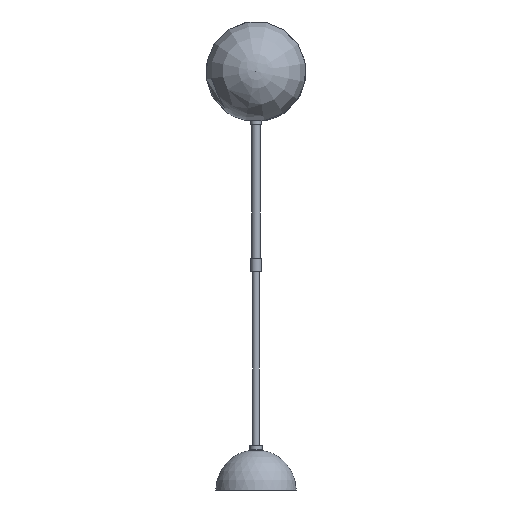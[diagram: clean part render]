
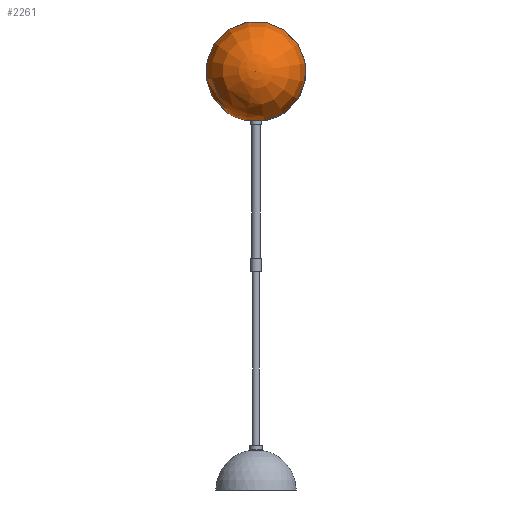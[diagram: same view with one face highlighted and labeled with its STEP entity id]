
A CAD part, front view. The second image highlights one B-rep face of the part: STEP entity #2261.
In plain terms, the highlighted free-form (B-spline) face has degree [2, 2] with [5, 9] control points.
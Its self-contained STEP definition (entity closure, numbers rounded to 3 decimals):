
#57=(
BOUNDED_SURFACE()
B_SPLINE_SURFACE(2,2,((#4041,#4042,#4043,#4044,#4045,#4046,#4047,#4048,
#4049),(#4050,#4051,#4052,#4053,#4054,#4055,#4056,#4057,#4058),(#4059,#4060,
#4061,#4062,#4063,#4064,#4065,#4066,#4067),(#4068,#4069,#4070,#4071,#4072,
#4073,#4074,#4075,#4076),(#4077,#4078,#4079,#4080,#4081,#4082,#4083,#4084,
#4085)),.UNSPECIFIED.,.F.,.T.,.F.)
B_SPLINE_SURFACE_WITH_KNOTS((3,2,3),(3,2,2,2,3),(-1.35,0.111,
1.572),(-3.142,-1.571,0.,1.571,
3.142),.UNSPECIFIED.)
GEOMETRIC_REPRESENTATION_ITEM()
RATIONAL_B_SPLINE_SURFACE(((1.,0.707,1.,0.707,1.,
0.707,1.,0.707,1.),(0.745,0.527,
0.745,0.527,0.745,0.527,
0.745,0.527,0.745),(1.,0.707,
1.,0.707,1.,0.707,1.,0.707,1.),(0.745,
0.527,0.745,0.527,0.745,0.527,
0.745,0.527,0.745),(1.,0.707,
1.,0.707,1.,0.707,1.,0.707,1.)))
REPRESENTATION_ITEM('')
SURFACE()
);
#252=FACE_OUTER_BOUND('',#429,.T.);
#429=EDGE_LOOP('',(#1741,#1742,#1743,#1744));
#832=CIRCLE('',#2526,16.5);
#834=CIRCLE('',#2528,16.5);
#837=CIRCLE('',#2532,75.);
#1033=VERTEX_POINT('',#4029);
#1034=VERTEX_POINT('',#4030);
#1038=VERTEX_POINT('',#4086);
#1283=EDGE_CURVE('',#1033,#1034,#832,.T.);
#1286=EDGE_CURVE('',#1034,#1033,#834,.T.);
#1289=EDGE_CURVE('',#1038,#1034,#837,.T.);
#1741=ORIENTED_EDGE('',*,*,#1289,.T.);
#1742=ORIENTED_EDGE('',*,*,#1286,.T.);
#1743=ORIENTED_EDGE('',*,*,#1283,.T.);
#1744=ORIENTED_EDGE('',*,*,#1289,.F.);
#2261=ADVANCED_FACE('',(#252),#57,.F.);
#2526=AXIS2_PLACEMENT_3D('',#4031,#3067,#3068);
#2528=AXIS2_PLACEMENT_3D('',#4035,#3072,#3073);
#2532=AXIS2_PLACEMENT_3D('',#4087,#3080,#3081);
#3067=DIRECTION('center_axis',(0.,-1.,0.));
#3068=DIRECTION('ref_axis',(0.84,0.,-0.543));
#3072=DIRECTION('center_axis',(0.,-1.,0.));
#3073=DIRECTION('ref_axis',(0.84,0.,-0.543));
#3080=DIRECTION('center_axis',(0.977,0.,-0.213));
#3081=DIRECTION('ref_axis',(-0.213,0.,-0.977));
#4029=CARTESIAN_POINT('',(-13.861,-304.024,8.951));
#4030=CARTESIAN_POINT('',(-3.509,-304.024,-16.123));
#4031=CARTESIAN_POINT('Origin',(0.,-304.024,
0.));
#4035=CARTESIAN_POINT('Origin',(0.,-304.024,
0.));
#4041=CARTESIAN_POINT('Ctrl Pts',(-3.509,-304.024,-16.123));
#4042=CARTESIAN_POINT('Ctrl Pts',(12.614,-304.024,-19.631));
#4043=CARTESIAN_POINT('Ctrl Pts',(16.123,-304.024,-3.509));
#4044=CARTESIAN_POINT('Ctrl Pts',(19.631,-304.024,12.614));
#4045=CARTESIAN_POINT('Ctrl Pts',(3.509,-304.024,16.123));
#4046=CARTESIAN_POINT('Ctrl Pts',(-12.614,-304.024,19.631));
#4047=CARTESIAN_POINT('Ctrl Pts',(-16.123,-304.024,3.509));
#4048=CARTESIAN_POINT('Ctrl Pts',(-19.631,-304.024,-12.614));
#4049=CARTESIAN_POINT('Ctrl Pts',(-3.509,-304.024,-16.123));
#4050=CARTESIAN_POINT('Ctrl Pts',(-17.456,-318.711,-80.211));
#4051=CARTESIAN_POINT('Ctrl Pts',(62.755,-318.711,-97.666));
#4052=CARTESIAN_POINT('Ctrl Pts',(80.211,-318.711,-17.456));
#4053=CARTESIAN_POINT('Ctrl Pts',(97.666,-318.711,62.755));
#4054=CARTESIAN_POINT('Ctrl Pts',(17.456,-318.711,80.211));
#4055=CARTESIAN_POINT('Ctrl Pts',(-62.755,-318.711,97.666));
#4056=CARTESIAN_POINT('Ctrl Pts',(-80.211,-318.711,17.456));
#4057=CARTESIAN_POINT('Ctrl Pts',(-97.666,-318.711,-62.755));
#4058=CARTESIAN_POINT('Ctrl Pts',(-17.456,-318.711,-80.211));
#4059=CARTESIAN_POINT('Ctrl Pts',(-15.874,-385.511,-72.943));
#4060=CARTESIAN_POINT('Ctrl Pts',(57.069,-385.511,-88.817));
#4061=CARTESIAN_POINT('Ctrl Pts',(72.943,-385.511,-15.874));
#4062=CARTESIAN_POINT('Ctrl Pts',(88.817,-385.511,57.069));
#4063=CARTESIAN_POINT('Ctrl Pts',(15.874,-385.511,72.943));
#4064=CARTESIAN_POINT('Ctrl Pts',(-57.069,-385.511,88.817));
#4065=CARTESIAN_POINT('Ctrl Pts',(-72.943,-385.511,15.874));
#4066=CARTESIAN_POINT('Ctrl Pts',(-88.817,-385.511,-57.069));
#4067=CARTESIAN_POINT('Ctrl Pts',(-15.874,-385.511,-72.943));
#4068=CARTESIAN_POINT('Ctrl Pts',(-14.292,-452.31,-65.675));
#4069=CARTESIAN_POINT('Ctrl Pts',(51.383,-452.31,-79.968));
#4070=CARTESIAN_POINT('Ctrl Pts',(65.675,-452.31,-14.292));
#4071=CARTESIAN_POINT('Ctrl Pts',(79.968,-452.31,51.383));
#4072=CARTESIAN_POINT('Ctrl Pts',(14.292,-452.31,65.675));
#4073=CARTESIAN_POINT('Ctrl Pts',(-51.383,-452.31,79.968));
#4074=CARTESIAN_POINT('Ctrl Pts',(-65.675,-452.31,14.292));
#4075=CARTESIAN_POINT('Ctrl Pts',(-79.968,-452.31,-51.383));
#4076=CARTESIAN_POINT('Ctrl Pts',(-14.292,-452.31,-65.675));
#4077=CARTESIAN_POINT('Ctrl Pts',(0.,-452.211,
0.));
#4078=CARTESIAN_POINT('Ctrl Pts',(0.,-452.211,
0.));
#4079=CARTESIAN_POINT('Ctrl Pts',(0.,-452.211,
0.));
#4080=CARTESIAN_POINT('Ctrl Pts',(0.,-452.211,
0.));
#4081=CARTESIAN_POINT('Ctrl Pts',(0.,-452.211,
0.));
#4082=CARTESIAN_POINT('Ctrl Pts',(0.,-452.211,
0.));
#4083=CARTESIAN_POINT('Ctrl Pts',(0.,-452.211,
0.));
#4084=CARTESIAN_POINT('Ctrl Pts',(0.,-452.211,
0.));
#4085=CARTESIAN_POINT('Ctrl Pts',(0.,-452.211,
0.));
#4086=CARTESIAN_POINT('',(0.,-452.211,0.));
#4087=CARTESIAN_POINT('Origin',(-0.024,-377.211,-0.108));
